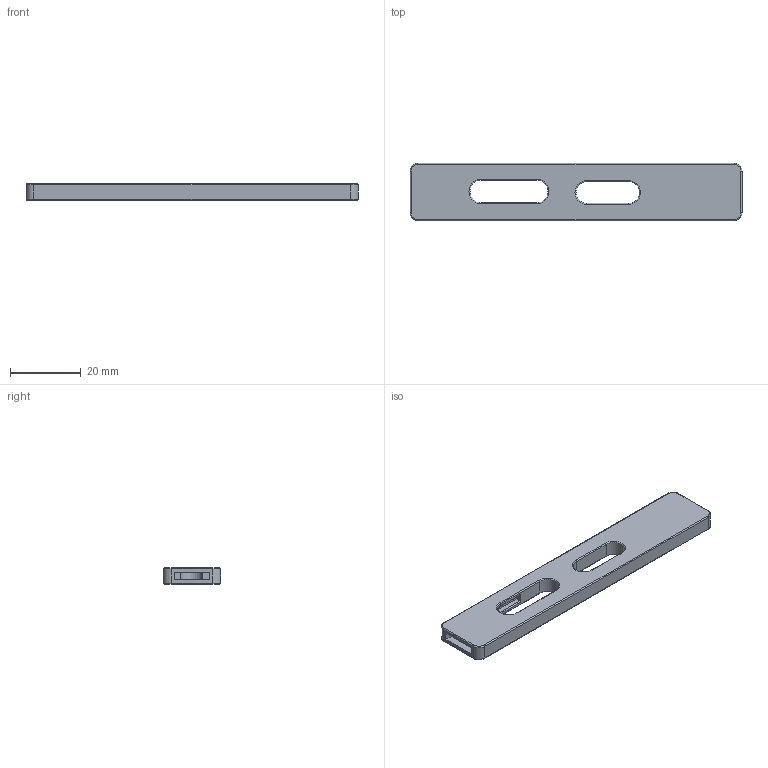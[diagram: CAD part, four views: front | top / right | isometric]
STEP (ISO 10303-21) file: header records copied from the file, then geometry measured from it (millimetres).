
FILE_DESCRIPTION(('Open CASCADE Model'),'2;1');
FILE_NAME('Open CASCADE Shape Model','2026-08-15T08:52:40',('Author'),( 'Open CASCADE'),'Open CASCADE STEP processor 7.9','Open CASCADE 7.9' ,'Unknown');
FILE_SCHEMA(('AUTOMOTIVE_DESIGN { 1 0 10303 214 1 1 1 1 }'));
Length unit declared in the file: millimetre
Products named in the file (1): Open CASCADE STEP translator 7.9 1
Bounding box: 94 x 16.2 x 4.6 mm (x, y, z)
Volume: 5192.8 mm3; surface area: 4631.1 mm2
Topology: 1 solids, 1 shells, 72 faces, 175 edges, 104 vertices
Faces by surface type: cylinder 31, plane 21, torus 20
Entity records: 4413 total; most frequent: CARTESIAN_POINT 922, DIRECTION 660, ORIENTED_EDGE 350, PCURVE 350, DEFINITIONAL_REPRESENTATION 350, LINE 333, VECTOR 333, EDGE_CURVE 175
